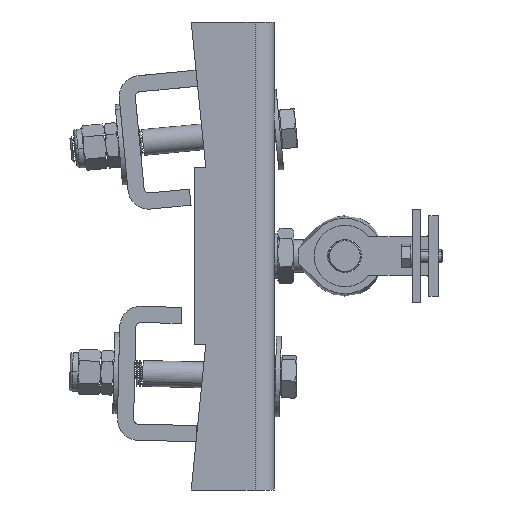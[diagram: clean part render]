
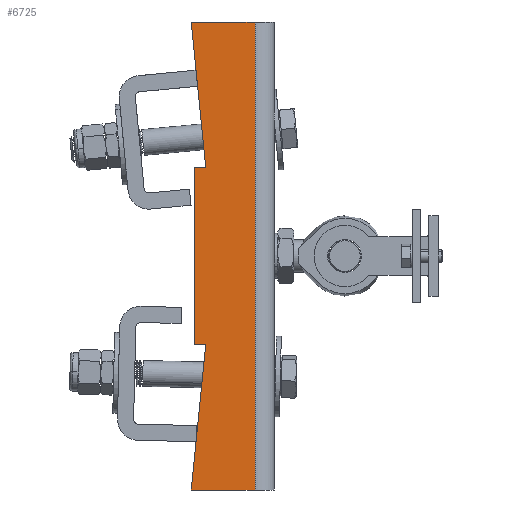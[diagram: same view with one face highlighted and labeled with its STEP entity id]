
A CAD part, left-side view. The second image highlights one B-rep face of the part: STEP entity #6725.
In plain terms, the highlighted planar face has unit normal (-1, 0, 0).
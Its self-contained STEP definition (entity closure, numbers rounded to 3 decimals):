
#14 = ORIENTED_EDGE ( 'NONE', *, *, #9335, .F. ) ;
#190 = EDGE_CURVE ( 'NONE', #11002, #10886, #4858, .T. ) ;
#202 = EDGE_CURVE ( 'NONE', #13528, #8590, #8917, .T. ) ;
#209 = DIRECTION ( 'NONE',  ( 0., 1., 0. ) ) ;
#372 = DIRECTION ( 'NONE',  ( 0., 0.1, 0.995 ) ) ;
#720 = CARTESIAN_POINT ( 'NONE',  ( -104.347, -3.023, 145. ) ) ;
#975 = CARTESIAN_POINT ( 'NONE',  ( -104.347, 36.581, -145. ) ) ;
#1331 = FACE_OUTER_BOUND ( 'NONE', #7655, .T. ) ;
#1731 = DIRECTION ( 'NONE',  ( 0., -1., 0. ) ) ;
#2008 = CARTESIAN_POINT ( 'NONE',  ( -104.347, 36.581, -145. ) ) ;
#2581 = ORIENTED_EDGE ( 'NONE', *, *, #3535, .F. ) ;
#2628 = LINE ( 'NONE', #11865, #10674 ) ;
#2671 = VERTEX_POINT ( 'NONE', #8089 ) ;
#2981 = CARTESIAN_POINT ( 'NONE',  ( -104.347, 27.581, 55. ) ) ;
#3341 = ORIENTED_EDGE ( 'NONE', *, *, #202, .F. ) ;
#3535 = EDGE_CURVE ( 'NONE', #8590, #10698, #4854, .T. ) ;
#3642 = VERTEX_POINT ( 'NONE', #2008 ) ;
#3749 = CARTESIAN_POINT ( 'NONE',  ( -104.347, -3.023, -145. ) ) ;
#3772 = DIRECTION ( 'NONE',  ( 0., 1., 0. ) ) ;
#3880 = DIRECTION ( 'NONE',  ( 0., 0., 1. ) ) ;
#3922 = EDGE_CURVE ( 'NONE', #2671, #13528, #4012, .T. ) ;
#4007 = EDGE_CURVE ( 'NONE', #8408, #3642, #6468, .T. ) ;
#4012 = LINE ( 'NONE', #10758, #8573 ) ;
#4459 = CARTESIAN_POINT ( 'NONE',  ( -104.347, -3.023, 125. ) ) ;
#4673 = DIRECTION ( 'NONE',  ( 0., 1., 0. ) ) ;
#4799 = ORIENTED_EDGE ( 'NONE', *, *, #3922, .F. ) ;
#4854 = LINE ( 'NONE', #4866, #9743 ) ;
#4858 = LINE ( 'NONE', #720, #12553 ) ;
#4866 = CARTESIAN_POINT ( 'NONE',  ( -104.347, 34.581, 55. ) ) ;
#5589 = VECTOR ( 'NONE', #12564, 1000. ) ;
#5958 = CARTESIAN_POINT ( 'NONE',  ( -104.347, -3.023, 145. ) ) ;
#6468 = LINE ( 'NONE', #6714, #13521 ) ;
#6635 = ORIENTED_EDGE ( 'NONE', *, *, #190, .F. ) ;
#6714 = CARTESIAN_POINT ( 'NONE',  ( -104.347, -3.023, -145. ) ) ;
#6725 = ADVANCED_FACE ( 'NONE', ( #1331 ), #6934, .F. ) ;
#6730 = LINE ( 'NONE', #4459, #7540 ) ;
#6934 = PLANE ( 'NONE',  #8509 ) ;
#7441 = CARTESIAN_POINT ( 'NONE',  ( -104.347, 34.581, 55. ) ) ;
#7540 = VECTOR ( 'NONE', #10874, 1000. ) ;
#7615 = ORIENTED_EDGE ( 'NONE', *, *, #10663, .F. ) ;
#7655 = EDGE_LOOP ( 'NONE', ( #2581, #3341, #4799, #7615, #9938, #14, #6635, #10915 ) ) ;
#7921 = CARTESIAN_POINT ( 'NONE',  ( -104.347, 34.581, 125. ) ) ;
#8089 = CARTESIAN_POINT ( 'NONE',  ( -104.347, 27.581, -55. ) ) ;
#8122 = CARTESIAN_POINT ( 'NONE',  ( -104.347, 34.581, 125. ) ) ;
#8408 = VERTEX_POINT ( 'NONE', #3749 ) ;
#8509 = AXIS2_PLACEMENT_3D ( 'NONE', #7921, #9956, #3772 ) ;
#8573 = VECTOR ( 'NONE', #209, 1000. ) ;
#8590 = VERTEX_POINT ( 'NONE', #7441 ) ;
#8917 = LINE ( 'NONE', #8122, #9093 ) ;
#9093 = VECTOR ( 'NONE', #3880, 1000. ) ;
#9138 = DIRECTION ( 'NONE',  ( 0., -1., 0. ) ) ;
#9335 = EDGE_CURVE ( 'NONE', #10886, #8408, #6730, .T. ) ;
#9352 = LINE ( 'NONE', #975, #5589 ) ;
#9364 = EDGE_CURVE ( 'NONE', #10698, #11002, #2628, .T. ) ;
#9421 = CARTESIAN_POINT ( 'NONE',  ( -104.347, 36.581, 145. ) ) ;
#9743 = VECTOR ( 'NONE', #1731, 1000. ) ;
#9938 = ORIENTED_EDGE ( 'NONE', *, *, #4007, .F. ) ;
#9953 = CARTESIAN_POINT ( 'NONE',  ( -104.347, 34.581, -55. ) ) ;
#9956 = DIRECTION ( 'NONE',  ( 1., 0., 0. ) ) ;
#10663 = EDGE_CURVE ( 'NONE', #3642, #2671, #9352, .T. ) ;
#10674 = VECTOR ( 'NONE', #372, 1000. ) ;
#10698 = VERTEX_POINT ( 'NONE', #2981 ) ;
#10758 = CARTESIAN_POINT ( 'NONE',  ( -104.347, 34.581, -55. ) ) ;
#10874 = DIRECTION ( 'NONE',  ( 0., 0., -1. ) ) ;
#10886 = VERTEX_POINT ( 'NONE', #5958 ) ;
#10915 = ORIENTED_EDGE ( 'NONE', *, *, #9364, .F. ) ;
#11002 = VERTEX_POINT ( 'NONE', #9421 ) ;
#11865 = CARTESIAN_POINT ( 'NONE',  ( -104.347, 27.581, 55. ) ) ;
#12553 = VECTOR ( 'NONE', #9138, 1000. ) ;
#12564 = DIRECTION ( 'NONE',  ( 0., -0.1, 0.995 ) ) ;
#13521 = VECTOR ( 'NONE', #4673, 1000. ) ;
#13528 = VERTEX_POINT ( 'NONE', #9953 ) ;
